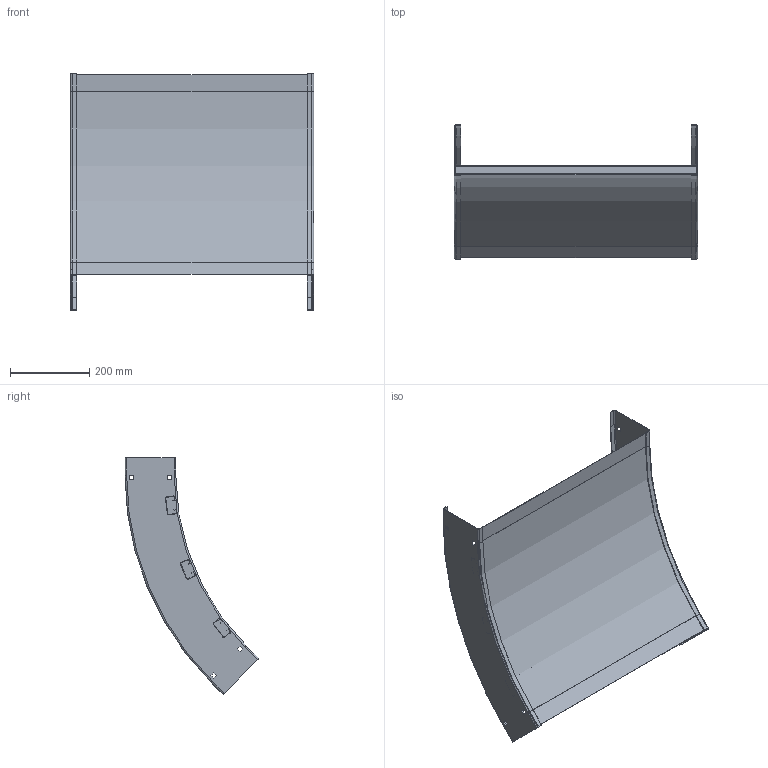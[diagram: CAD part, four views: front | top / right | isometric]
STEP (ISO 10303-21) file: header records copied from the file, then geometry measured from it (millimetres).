
FILE_DESCRIPTION((''),'2;1');
FILE_NAME('AUF524SVO4524_ASM','2010-02-02T',('erouzier'),(''),'PRO/ENGINEER BY PARAMETRIC TECHNOLOGY CORPORATION, 2008510','PRO/ENGINEER BY PARAMETRIC TECHNOLOGY CORPORATION, 2008510','');
FILE_SCHEMA(('CONFIG_CONTROL_DESIGN'));
Length unit declared in the file: inch
Products named in the file (4): CDS001417_5_45_24; CDS002159L24; CDS003665_45_24_24; AUF524SVO4524_ASM
Assembly tree (6 placements, depth 2):
  AUF524SVO4524_ASM
    CDS001417_5_45_24  x2
    CDS002159L24  x3
    CDS003665_45_24_24
Bounding box: 613.71 x 338.05 x 597.49 mm (x, y, z)
Volume: 989600.4 mm3; surface area: 1501503.2 mm2
Topology: 6 solids, 6 shells, 220 faces, 552 edges, 344 vertices
Faces by surface type: plane 153, cylinder 59, torus 8
Entity records: 3082 total; most frequent: DIRECTION 526, CARTESIAN_POINT 512, ORIENTED_EDGE 496, EDGE_CURVE 248, VECTOR 194, LINE 194, AXIS2_PLACEMENT_3D 166, VERTEX_POINT 152
